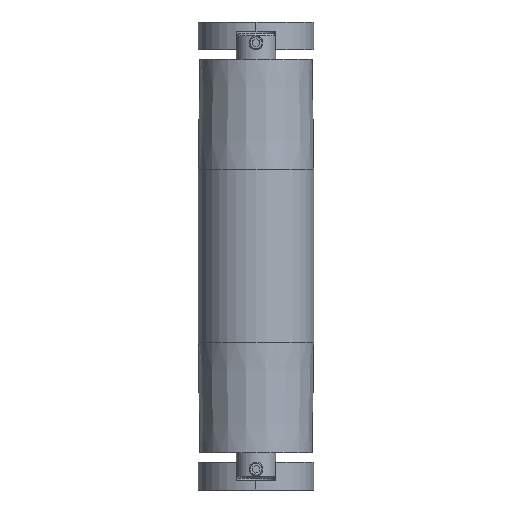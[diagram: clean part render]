
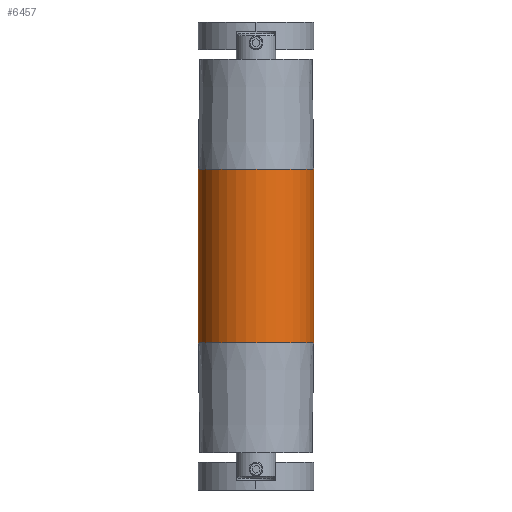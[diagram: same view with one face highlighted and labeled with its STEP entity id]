
A CAD part, left-side view. The second image highlights one B-rep face of the part: STEP entity #6457.
In plain terms, the highlighted cylindrical face has radius 24.9 mm (diameter 49.8 mm), a partial arc.
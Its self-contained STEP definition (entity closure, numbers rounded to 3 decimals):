
#6 = VECTOR ( 'NONE', #2489, 1000. ) ;
#15 = DIRECTION ( 'NONE',  ( -1., 0., 0. ) ) ;
#400 = VERTEX_POINT ( 'NONE', #3473 ) ;
#467 = VERTEX_POINT ( 'NONE', #4688 ) ;
#552 = CARTESIAN_POINT ( 'NONE',  ( -85., 0., 0. ) ) ;
#573 = DIRECTION ( 'NONE',  ( 0., 0., 1. ) ) ;
#704 = FACE_OUTER_BOUND ( 'NONE', #6804, .T. ) ;
#721 = VERTEX_POINT ( 'NONE', #1927 ) ;
#940 = ORIENTED_EDGE ( 'NONE', *, *, #1411, .F. ) ;
#1078 = AXIS2_PLACEMENT_3D ( 'NONE', #4002, #2236, #7571 ) ;
#1411 = EDGE_CURVE ( 'NONE', #400, #467, #2847, .T. ) ;
#1662 = LINE ( 'NONE', #5565, #6 ) ;
#1809 = LINE ( 'NONE', #7107, #4960 ) ;
#1927 = CARTESIAN_POINT ( 'NONE',  ( 37.5, 0., 24.9 ) ) ;
#2003 = EDGE_CURVE ( 'NONE', #6630, #721, #4340, .T. ) ;
#2236 = DIRECTION ( 'NONE',  ( -1., 0., 0. ) ) ;
#2349 = DIRECTION ( 'NONE',  ( 0., 0., 1. ) ) ;
#2489 = DIRECTION ( 'NONE',  ( -1., 0., 0. ) ) ;
#2551 = AXIS2_PLACEMENT_3D ( 'NONE', #552, #15, #573 ) ;
#2847 = CIRCLE ( 'NONE', #1078, 24.9 ) ;
#3078 = AXIS2_PLACEMENT_3D ( 'NONE', #5918, #6594, #2349 ) ;
#3370 = CARTESIAN_POINT ( 'NONE',  ( 37.5, 0., -24.9 ) ) ;
#3473 = CARTESIAN_POINT ( 'NONE',  ( -37.5, 0., -24.9 ) ) ;
#4002 = CARTESIAN_POINT ( 'NONE',  ( -37.5, 0., 0. ) ) ;
#4293 = ORIENTED_EDGE ( 'NONE', *, *, #2003, .T. ) ;
#4340 = CIRCLE ( 'NONE', #3078, 24.9 ) ;
#4688 = CARTESIAN_POINT ( 'NONE',  ( -37.5, 0., 24.9 ) ) ;
#4936 = ORIENTED_EDGE ( 'NONE', *, *, #7614, .T. ) ;
#4960 = VECTOR ( 'NONE', #7063, 1000. ) ;
#5565 = CARTESIAN_POINT ( 'NONE',  ( -85., 0., 24.9 ) ) ;
#5918 = CARTESIAN_POINT ( 'NONE',  ( 37.5, 0., 0. ) ) ;
#6457 = ADVANCED_FACE ( 'NONE', ( #704 ), #6831, .T. ) ;
#6462 = EDGE_CURVE ( 'NONE', #6630, #400, #1809, .T. ) ;
#6594 = DIRECTION ( 'NONE',  ( -1., 0., 0. ) ) ;
#6630 = VERTEX_POINT ( 'NONE', #3370 ) ;
#6804 = EDGE_LOOP ( 'NONE', ( #7576, #4293, #4936, #940 ) ) ;
#6831 = CYLINDRICAL_SURFACE ( 'NONE', #2551, 24.9 ) ;
#7063 = DIRECTION ( 'NONE',  ( -1., 0., 0. ) ) ;
#7107 = CARTESIAN_POINT ( 'NONE',  ( -85., 0., -24.9 ) ) ;
#7571 = DIRECTION ( 'NONE',  ( 0., 0., 1. ) ) ;
#7576 = ORIENTED_EDGE ( 'NONE', *, *, #6462, .F. ) ;
#7614 = EDGE_CURVE ( 'NONE', #721, #467, #1662, .T. ) ;
